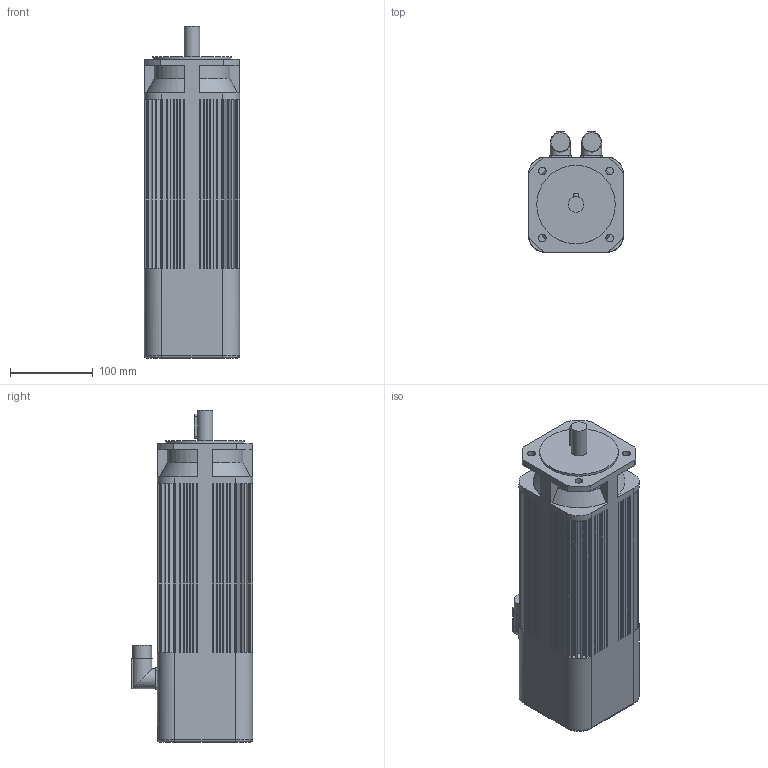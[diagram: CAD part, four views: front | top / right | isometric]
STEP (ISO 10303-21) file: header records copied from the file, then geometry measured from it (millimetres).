
FILE_DESCRIPTION(/* description */ (''),/* implementation_level */ '2;1');
FILE_NAME(/* name */ '\\Lafnas01\disegni\Archivi Lafert\3D\CAD 3D\MODELLI\Assiemi clienti\Serad\Modelli 3D Serad\B63I\Encoder\Enc With Brake\B6310Ixx6BRx2033.ipt.stp',/* time_stamp */ '2015-09-07T10:50:33+02:00',/* author */ ('Pastrello Ylenia'),/* organization */ (''),/* preprocessor_version */ 'ST-DEVELOPER v15.6',/* originating_system */ 'Autodesk Inventor 2015',/* authorisation */ '');
FILE_SCHEMA (('AUTOMOTIVE_DESIGN { 1 0 10303 214 3 1 1 }'));
Length unit declared in the file: millimetre
Products named in the file (1): B6310Ixx6BRx2033
Bounding box: 115 x 146.5 x 401.5 mm (x, y, z)
Volume: 4467210.2 mm3; surface area: 248569.8 mm2
Topology: 1 solids, 1 shells, 445 faces, 1091 edges, 704 vertices
Faces by surface type: plane 351, cylinder 86, cone 4, torus 4
Full cylindrical faces by diameter (mm): 9 x4, 19 x1, 22.7 x2, 24 x2, 95 x1
Entity records: 13008 total; most frequent: CARTESIAN_POINT 2276, DIRECTION 2254, ORIENTED_EDGE 2156, EDGE_CURVE 1078, LINE 774, VECTOR 774, AXIS2_PLACEMENT_3D 740, VERTEX_POINT 702
